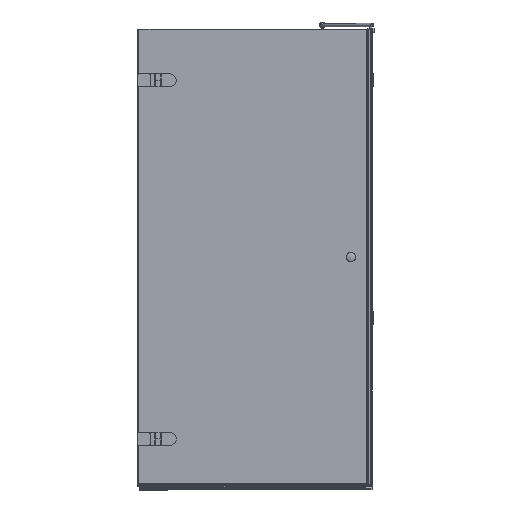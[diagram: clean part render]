
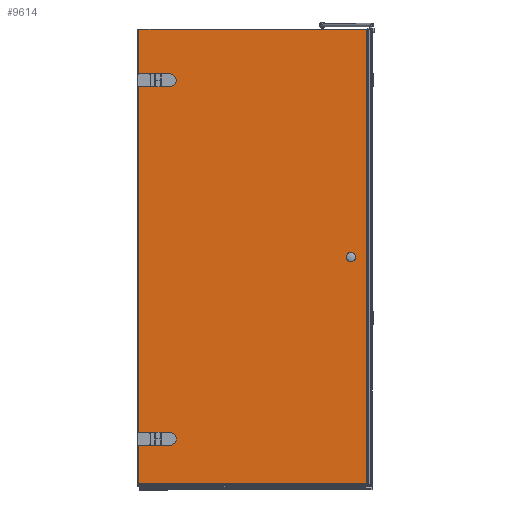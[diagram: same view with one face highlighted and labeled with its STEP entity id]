
A CAD part, front view. The second image highlights one B-rep face of the part: STEP entity #9614.
In plain terms, the highlighted planar face has unit normal (0, -1, 0).
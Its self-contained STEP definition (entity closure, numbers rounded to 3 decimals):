
#168=LINE($,#14109,#1117);
#171=LINE($,#14115,#1120);
#175=LINE($,#14125,#1124);
#218=LINE($,#14237,#1167);
#221=LINE($,#14243,#1170);
#225=LINE($,#14253,#1174);
#371=LINE($,#14724,#1320);
#405=LINE($,#14822,#1354);
#712=LINE($,#15950,#1661);
#717=LINE($,#15960,#1666);
#1117=VECTOR($,#11041,52.);
#1120=VECTOR($,#11046,23.);
#1124=VECTOR($,#11058,23.);
#1167=VECTOR($,#11165,52.);
#1170=VECTOR($,#11170,23.);
#1174=VECTOR($,#11182,23.);
#1320=VECTOR($,#11558,1875.4);
#1354=VECTOR($,#11654,944.8);
#1661=VECTOR($,#12453,1875.4);
#1666=VECTOR($,#12468,944.8);
#2068=FACE_BOUND($,#3168,.T.);
#2069=FACE_BOUND($,#3169,.T.);
#2070=FACE_BOUND($,#3170,.T.);
#3168=EDGE_LOOP($,(#7687,#7688,#7689,#7690));
#3169=EDGE_LOOP($,(#7691,#7692,#7693,#7694));
#3170=EDGE_LOOP($,(#7695,#7696,#7697,#7698));
#3378=CIRCLE($,#9921,26.);
#3390=CIRCLE($,#9958,26.);
#3755=VERTEX_POINT($,#14106);
#3756=VERTEX_POINT($,#14108);
#3758=VERTEX_POINT($,#14114);
#3760=VERTEX_POINT($,#14120);
#3796=VERTEX_POINT($,#14234);
#3797=VERTEX_POINT($,#14236);
#3799=VERTEX_POINT($,#14242);
#3801=VERTEX_POINT($,#14248);
#3946=VERTEX_POINT($,#14721);
#3947=VERTEX_POINT($,#14723);
#3976=VERTEX_POINT($,#14821);
#4259=VERTEX_POINT($,#15936);
#4649=EDGE_CURVE($,#3756,#3755,#168,.T.);
#4652=EDGE_CURVE($,#3758,#3756,#171,.T.);
#4655=EDGE_CURVE($,#3760,#3758,#3378,.T.);
#4658=EDGE_CURVE($,#3755,#3760,#175,.T.);
#4711=EDGE_CURVE($,#3797,#3796,#218,.T.);
#4714=EDGE_CURVE($,#3799,#3797,#221,.T.);
#4717=EDGE_CURVE($,#3801,#3799,#3390,.T.);
#4720=EDGE_CURVE($,#3796,#3801,#225,.T.);
#4921=EDGE_CURVE($,#3947,#3946,#371,.T.);
#4971=EDGE_CURVE($,#3947,#3976,#405,.T.);
#5401=EDGE_CURVE($,#4259,#3976,#712,.T.);
#5406=EDGE_CURVE($,#3946,#4259,#717,.T.);
#7687=ORIENTED_EDGE($,*,*,#4649,.T.);
#7688=ORIENTED_EDGE($,*,*,#4658,.T.);
#7689=ORIENTED_EDGE($,*,*,#4655,.T.);
#7690=ORIENTED_EDGE($,*,*,#4652,.T.);
#7691=ORIENTED_EDGE($,*,*,#4711,.T.);
#7692=ORIENTED_EDGE($,*,*,#4720,.T.);
#7693=ORIENTED_EDGE($,*,*,#4717,.T.);
#7694=ORIENTED_EDGE($,*,*,#4714,.T.);
#7695=ORIENTED_EDGE($,*,*,#4921,.T.);
#7696=ORIENTED_EDGE($,*,*,#5406,.T.);
#7697=ORIENTED_EDGE($,*,*,#5401,.T.);
#7698=ORIENTED_EDGE($,*,*,#4971,.F.);
#8580=PLANE($,#10427);
#9614=ADVANCED_FACE($,(#2068,#2069,#2070),#8580,.T.);
#9921=AXIS2_PLACEMENT_3D($,#14121,#11052,#11053);
#9958=AXIS2_PLACEMENT_3D($,#14249,#11176,#11177);
#10427=AXIS2_PLACEMENT_3D($,#16136,#12672,#12673);
#11041=DIRECTION($,(0.,0.,1.));
#11046=DIRECTION($,(-1.,0.,0.));
#11052=DIRECTION('center_axis',(0.,1.,0.));
#11053=DIRECTION('ref_axis',(0.,0.,
1.));
#11058=DIRECTION($,(1.,0.,0.));
#11165=DIRECTION($,(0.,0.,1.));
#11170=DIRECTION($,(-1.,0.,0.));
#11176=DIRECTION('center_axis',(0.,1.,0.));
#11177=DIRECTION('ref_axis',(0.,0.,
1.));
#11182=DIRECTION($,(1.,0.,0.));
#11558=DIRECTION($,(0.,0.,-1.));
#11654=DIRECTION($,(1.,0.,0.));
#12453=DIRECTION($,(0.,0.,1.));
#12468=DIRECTION($,(1.,0.,0.));
#12672=DIRECTION('center_axis',(0.,-1.,0.));
#12673=DIRECTION('ref_axis',(1.,0.,0.));
#14106=CARTESIAN_POINT('',(366.662,-44.044,-278.056));
#14108=CARTESIAN_POINT('',(366.662,-44.044,-330.056));
#14109=CARTESIAN_POINT($,(366.662,-44.044,-412.056));
#14114=CARTESIAN_POINT('',(389.662,-44.044,-330.056));
#14115=CARTESIAN_POINT($,(324.162,-44.044,-330.056));
#14120=CARTESIAN_POINT('',(389.662,-44.044,-278.056));
#14121=CARTESIAN_POINT('Origin',(389.662,-44.044,-304.056));
#14125=CARTESIAN_POINT($,(312.662,-44.044,-278.056));
#14234=CARTESIAN_POINT('',(366.662,-44.044,1201.944));
#14236=CARTESIAN_POINT('',(366.662,-44.044,1149.944));
#14237=CARTESIAN_POINT($,(366.662,-44.044,327.944));
#14242=CARTESIAN_POINT('',(389.662,-44.044,1149.944));
#14243=CARTESIAN_POINT($,(324.162,-44.044,1149.944));
#14248=CARTESIAN_POINT('',(389.662,-44.044,1201.944));
#14249=CARTESIAN_POINT('Origin',(389.662,-44.044,1175.944));
#14253=CARTESIAN_POINT($,(312.662,-44.044,1201.944));
#14721=CARTESIAN_POINT('',(263.362,-44.044,-489.456));
#14723=CARTESIAN_POINT('',(263.362,-44.044,1385.944));
#14724=CARTESIAN_POINT($,(263.362,-44.044,445.944));
#14821=CARTESIAN_POINT('',(1208.162,-44.044,1385.944));
#14822=CARTESIAN_POINT($,(258.662,-44.044,1385.944));
#15936=CARTESIAN_POINT('',(1208.162,-44.044,-489.456));
#15950=CARTESIAN_POINT($,(1208.162,-44.044,-494.056));
#15960=CARTESIAN_POINT($,(258.662,-44.044,-489.456));
#16136=CARTESIAN_POINT('Origin',(258.662,-44.044,-494.056));
